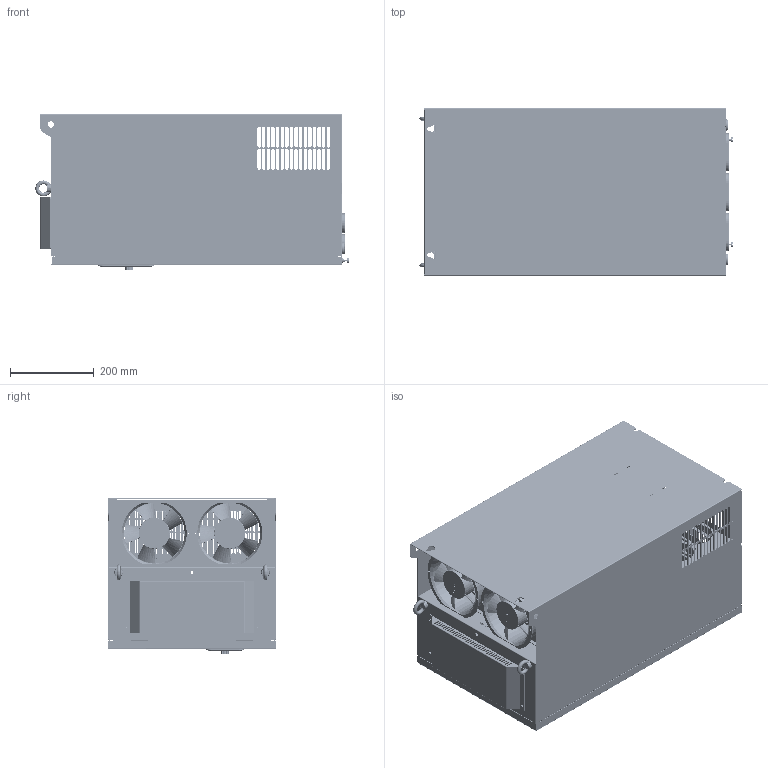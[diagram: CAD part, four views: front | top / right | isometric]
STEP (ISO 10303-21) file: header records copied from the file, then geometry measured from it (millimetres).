
FILE_DESCRIPTION((''),'2;1');
FILE_NAME('132KW_3D-PI500_ASM_57_ASM_1_ASM_ASM','2022-07-18T',('Administrator'),(''),'PRO/ENGINEER BY PARAMETRIC TECHNOLOGY CORPORATION, 2010280','PRO/ENGINEER BY PARAMETRIC TECHNOLOGY CORPORATION, 2010280','');
FILE_SCHEMA(('AUTOMOTIVE_DESIGN_CC2 { 1 2 10303 214 -1 1 5 2 }'));
Products named in the file (100): MANIFOLD_SOLID_BREP_21408_1_1; MANIFOLD_SOLID_BREP_21665_1_1; MANIFOLD_SOLID_BREP_22179_1_1; MANIFOLD_SOLID_BREP_21922_1_1; MANIFOLD_SOLID_BREP_22950_1_1; MANIFOLD_SOLID_BREP_23207_1_1; 5G3SS3F001_39_ASM_1_ASM_1_ASM; MANIFOLD_SOLID_BREP_28013_1_1; MANIFOLD_SOLID_BREP_28270_1_1; MANIFOLD_SOLID_BREP_28527_1_1; _5G3SS3F002_21_1_1; 5G3SS3F002_21_ASM_1_ASM_1_ASM; MANIFOLD_SOLID_BREP_52978_1_1; MANIFOLD_SOLID_BREP_54006_1_1; MANIFOLD_SOLID_BREP_54263_1_1; MANIFOLD_SOLID_BREP_54520_1_1; MANIFOLD_SOLID_BREP_54777_1_1; MANIFOLD_SOLID_BREP_55034_1_1; MANIFOLD_SOLID_BREP_55291_1_1; MANIFOLD_SOLID_BREP_55548_1_1; MANIFOLD_SOLID_BREP_55805_1_1; MANIFOLD_SOLID_BREP_56062_1_1; MANIFOLD_SOLID_BREP_56319_1_1; MANIFOLD_SOLID_BREP_56576_1_1; MANIFOLD_SOLID_BREP_56833_1_1; MANIFOLD_SOLID_BREP_57090_1_1; MANIFOLD_SOLID_BREP_57347_1_1; MANIFOLD_SOLID_BREP_57604_1_1; MANIFOLD_SOLID_BREP_57861_1_1; MANIFOLD_SOLID_BREP_58118_1_1; MANIFOLD_SOLID_BREP_59660_1_1; MANIFOLD_SOLID_BREP_59917_1_1; MANIFOLD_SOLID_BREP_60174_1_1; MANIFOLD_SOLID_BREP_60431_1_1; MANIFOLD_SOLID_BREP_61977_1_1; MANIFOLD_SOLID_BREP_62234_1_1; MANIFOLD_SOLID_BREP_63780_1_1; MANIFOLD_SOLID_BREP_64037_1_1; MANIFOLD_SOLID_BREP_64294_1_1; MANIFOLD_SOLID_BREP_64551_1_1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
Assembly tree (110 placements, depth 6):
  132KW_3D-PI500_ASM_57_ASM_1_ASM_ASM
    5G3SS1F001_ASM_36_ASM_1_ASM_1_ASM
      5G3SS2F001_ASM_39_ASM_1_ASM_1_ASM
        5G3SS3F001_39_ASM_1_ASM_1_ASM
          MANIFOLD_SOLID_BREP_21408_1_1
          MANIFOLD_SOLID_BREP_21665_1_1
          MANIFOLD_SOLID_BREP_22179_1_1
          MANIFOLD_SOLID_BREP_21922_1_1
          MANIFOLD_SOLID_BREP_22950_1_1
          MANIFOLD_SOLID_BREP_23207_1_1
        5G3SS3F002_21_ASM_1_ASM_1_ASM
          MANIFOLD_SOLID_BREP_28013_1_1
          MANIFOLD_SOLID_BREP_28270_1_1
          MANIFOLD_SOLID_BREP_28527_1_1
          _5G3SS3F002_21_1_1
        5G3SS2F002_ASM_23_ASM_1_ASM_1_ASM
          5G3SS3F003_66_ASM_1_ASM_1_ASM
            MANIFOLD_SOLID_BREP_52978_1_1
            MANIFOLD_SOLID_BREP_54006_1_1
            MANIFOLD_SOLID_BREP_54263_1_1
            MANIFOLD_SOLID_BREP_54520_1_1
            MANIFOLD_SOLID_BREP_54777_1_1
            MANIFOLD_SOLID_BREP_55034_1_1
            MANIFOLD_SOLID_BREP_55291_1_1
            MANIFOLD_SOLID_BREP_55548_1_1
            MANIFOLD_SOLID_BREP_55805_1_1
            MANIFOLD_SOLID_BREP_56062_1_1
            MANIFOLD_SOLID_BREP_56319_1_1
            MANIFOLD_SOLID_BREP_56576_1_1
            MANIFOLD_SOLID_BREP_56833_1_1
            MANIFOLD_SOLID_BREP_57090_1_1
            MANIFOLD_SOLID_BREP_57347_1_1
            MANIFOLD_SOLID_BREP_57604_1_1
            MANIFOLD_SOLID_BREP_57861_1_1
            MANIFOLD_SOLID_BREP_58118_1_1
            MANIFOLD_SOLID_BREP_59660_1_1
            MANIFOLD_SOLID_BREP_59917_1_1
            MANIFOLD_SOLID_BREP_60174_1_1
            MANIFOLD_SOLID_BREP_60431_1_1
            MANIFOLD_SOLID_BREP_61977_1_1
            MANIFOLD_SOLID_BREP_62234_1_1
            MANIFOLD_SOLID_BREP_63780_1_1
            MANIFOLD_SOLID_BREP_64037_1_1
            MANIFOLD_SOLID_BREP_64294_1_1
            MANIFOLD_SOLID_BREP_64551_1_1
        5G3TV3F008_15_ASM_1_ASM_1_ASM  x3
          _5G3TV3F008_15_1_1
      5G3SS3F009_25_1_1
      5G3SS3F010_21_ASM_1_ASM_1_ASM
        MANIFOLD_SOLID_BREP_105286_1_1
        MANIFOLD_SOLID_BREP_105488_1_1
        MANIFOLD_SOLID_BREP_105690_1_1
        MANIFOLD_SOLID_BREP_105892_1_1
        MANIFOLD_SOLID_BREP_106094_1_1
        MANIFOLD_SOLID_BREP_106296_1_1
        MANIFOLD_SOLID_BREP_106498_1_1
        MANIFOLD_SOLID_BREP_106700_1_1
        MANIFOLD_SOLID_BREP_106902_1_1
        _5G3SS3F010_21_1_1
      5G3SS3F011_24_ASM_1_ASM_1_ASM
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Bounding box: 747 x 400 x 372 mm (x, y, z)
Volume: 9135957.2 mm3; surface area: 11827102.2 mm2
Topology: 86 solids, 170 shells, 7085 faces, 33193 edges, 29824 vertices
Faces by surface type: plane 4076, cylinder 2325, extrusion 282, bspline 154, torus 149, cone 69, sphere 28, revolution 2
Entity records: 372082 total; most frequent: CARTESIAN_POINT 80662, DIRECTION 45814, ORIENTED_EDGE 36478, VECTOR 22470, LINE 22327, EDGE_CURVE 19207, PRESENTATION_STYLE_ASSIGNMENT 16282, STYLED_ITEM 16282
